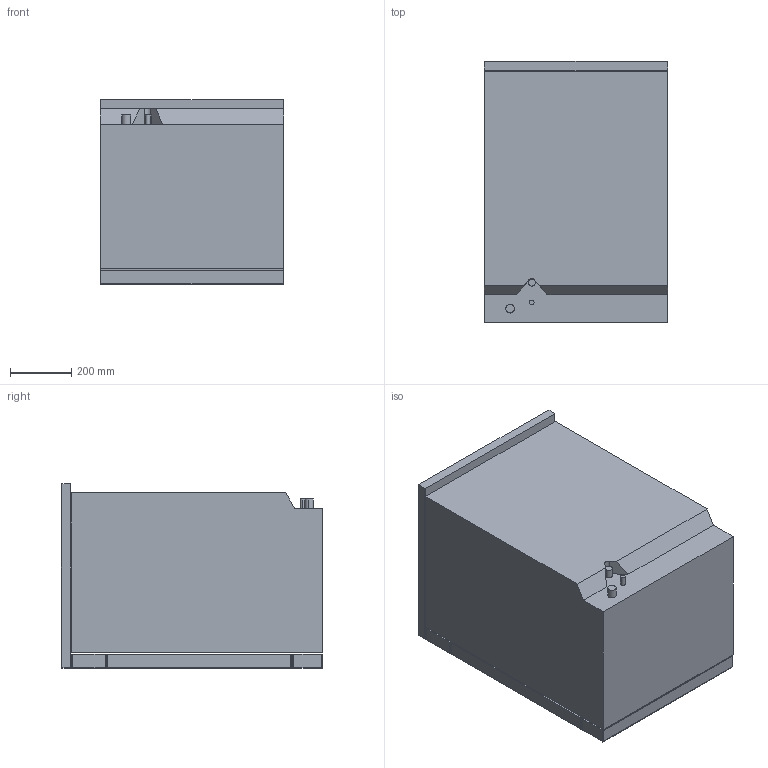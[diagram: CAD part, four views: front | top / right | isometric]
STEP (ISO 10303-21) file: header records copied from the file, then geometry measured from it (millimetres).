
FILE_DESCRIPTION (( 'STEP AP214' ), '1' );
FILE_NAME ('LI60 i2 inox.STEP', '2023-04-03T11:44:23', ( '' ), ( '' ), 'SwSTEP 2.0', 'SolidWorks 2021', '' );
FILE_SCHEMA (( 'AUTOMOTIVE_DESIGN' ));
Length unit declared in the file: millimetre
Products named in the file (1): LI60 i2 inox
Bounding box: 598 x 850 x 601 mm (x, y, z)
Volume: 283526618.3 mm3; surface area: 4698102 mm2
Topology: 13 solids, 13 shells, 573 faces, 1441 edges, 892 vertices
Faces by surface type: plane 301, cylinder 175, cone 54, bspline 27, sphere 16
Entity records: 17290 total; most frequent: CARTESIAN_POINT 3505, ORIENTED_EDGE 2850, DIRECTION 2849, EDGE_CURVE 1425, LINE 961, VECTOR 961, AXIS2_PLACEMENT_3D 944, VERTEX_POINT 892
